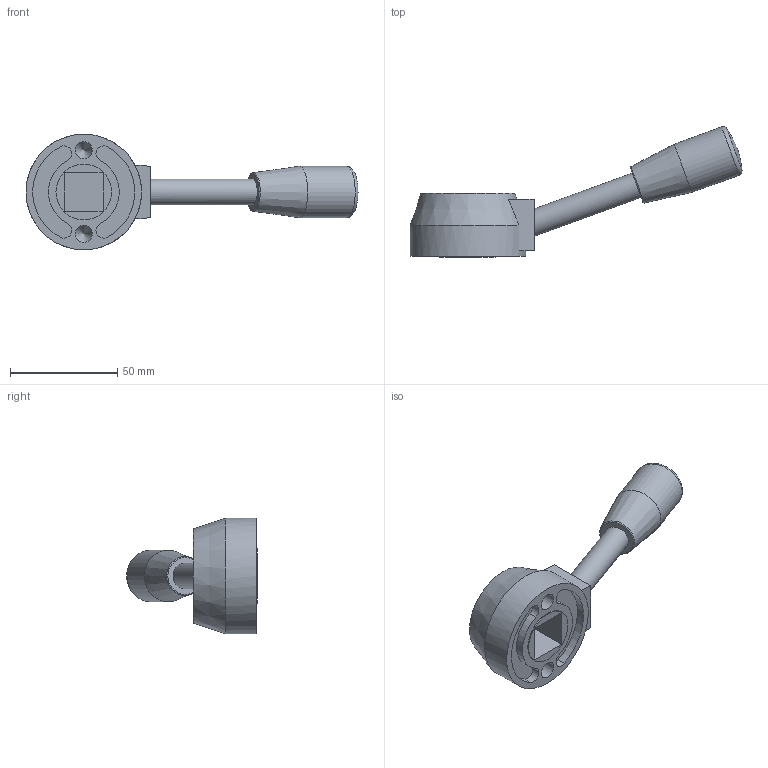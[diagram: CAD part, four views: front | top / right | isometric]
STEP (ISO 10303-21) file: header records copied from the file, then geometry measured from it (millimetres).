
FILE_DESCRIPTION( ( 'STEP AP203' ), '1' );
FILE_NAME( 'C:/Temp/Ganter_Step_05_03_2020/data/2_1/gn_512/gn_512_v/Control lever GN 512-54-V18.stp', '2020-03-05T11:51:44', ( 'License CC BY-ND 4.0' ), ( 'CADENAS' ), ' ', 'PARTsolutions', ' ' );
FILE_SCHEMA( ( 'CONFIG_CONTROL_DESIGN' ) );
Length unit declared in the file: millimetre
Products named in the file (1): _Control lever GN 512-54-V18
Bounding box: 155.09 x 61.04 x 54 mm (x, y, z)
Volume: 76770.6 mm3; surface area: 19129.9 mm2
Topology: 1 solids, 1 shells, 39 faces, 89 edges, 58 vertices
Faces by surface type: plane 17, cylinder 15, cone 4, torus 2, sphere 1
Full cylindrical faces by diameter (mm): 8 x2, 12 x1, 24 x1, 26 x1, 31 x1, 54 x1
Entity records: 1032 total; most frequent: DIRECTION 182, CARTESIAN_POINT 168, ORIENTED_EDGE 136, AXIS2_PLACEMENT_3D 76, EDGE_CURVE 68, EDGE_LOOP 59, VERTEX_POINT 54, FACE_OUTER_BOUND 48
